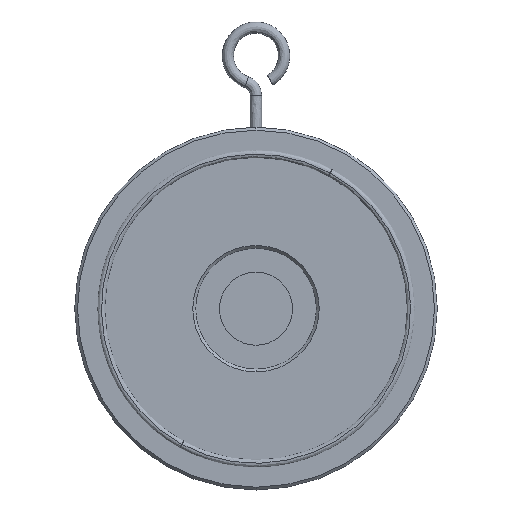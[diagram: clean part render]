
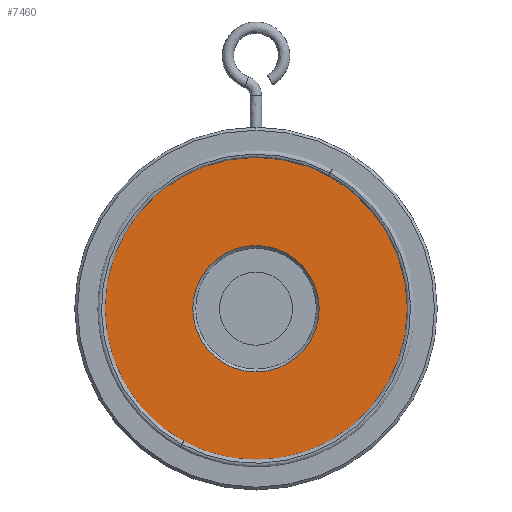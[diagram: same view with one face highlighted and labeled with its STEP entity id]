
A CAD part, left-side view. The second image highlights one B-rep face of the part: STEP entity #7460.
In plain terms, the highlighted planar face has unit normal (-1, 0, 0).
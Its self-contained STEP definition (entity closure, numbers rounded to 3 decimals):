
#199 = EDGE_CURVE ( 'NONE', #4993, #1226, #619, .T. ) ;
#401 = DIRECTION ( 'NONE',  ( 1., 0., 0. ) ) ;
#526 = CARTESIAN_POINT ( 'NONE',  ( -8., 0., 0. ) ) ;
#569 = CARTESIAN_POINT ( 'NONE',  ( -8., 0., 0. ) ) ;
#619 = CIRCLE ( 'NONE', #4421, 22.5 ) ;
#758 = ORIENTED_EDGE ( 'NONE', *, *, #4312, .T. ) ;
#1011 = EDGE_LOOP ( 'NONE', ( #758, #2785 ) ) ;
#1226 = VERTEX_POINT ( 'NONE', #2347 ) ;
#1272 = DIRECTION ( 'NONE',  ( 0., 0., 1. ) ) ;
#1315 = DIRECTION ( 'NONE',  ( 1., 0., 0. ) ) ;
#1548 = VERTEX_POINT ( 'NONE', #3069 ) ;
#1712 = DIRECTION ( 'NONE',  ( 0., 0., 1. ) ) ;
#1819 = CIRCLE ( 'NONE', #3632, 53.853 ) ;
#1911 = EDGE_CURVE ( 'NONE', #9062, #1548, #1819, .T. ) ;
#2347 = CARTESIAN_POINT ( 'NONE',  ( -8., 0., 22.5 ) ) ;
#2388 = EDGE_CURVE ( 'NONE', #1548, #9062, #3902, .T. ) ;
#2425 = FACE_OUTER_BOUND ( 'NONE', #4927, .T. ) ;
#2785 = ORIENTED_EDGE ( 'NONE', *, *, #199, .T. ) ;
#3069 = CARTESIAN_POINT ( 'NONE',  ( -8., 0., -53.853 ) ) ;
#3106 = DIRECTION ( 'NONE',  ( 0., 0., 1. ) ) ;
#3328 = AXIS2_PLACEMENT_3D ( 'NONE', #526, #5718, #1272 ) ;
#3496 = ORIENTED_EDGE ( 'NONE', *, *, #1911, .F. ) ;
#3632 = AXIS2_PLACEMENT_3D ( 'NONE', #8323, #9065, #1712 ) ;
#3902 = CIRCLE ( 'NONE', #6929, 53.853 ) ;
#4312 = EDGE_CURVE ( 'NONE', #1226, #4993, #9521, .T. ) ;
#4421 = AXIS2_PLACEMENT_3D ( 'NONE', #7545, #7512, #3106 ) ;
#4855 = CARTESIAN_POINT ( 'NONE',  ( -8., 0., 0. ) ) ;
#4927 = EDGE_LOOP ( 'NONE', ( #3496, #6088 ) ) ;
#4993 = VERTEX_POINT ( 'NONE', #6997 ) ;
#5592 = DIRECTION ( 'NONE',  ( 0., 0., 1. ) ) ;
#5718 = DIRECTION ( 'NONE',  ( 1., 0., 0. ) ) ;
#6036 = CARTESIAN_POINT ( 'NONE',  ( -8., 0., 53.853 ) ) ;
#6088 = ORIENTED_EDGE ( 'NONE', *, *, #2388, .F. ) ;
#6116 = FACE_BOUND ( 'NONE', #1011, .T. ) ;
#6495 = DIRECTION ( 'NONE',  ( 0., 0., -1. ) ) ;
#6929 = AXIS2_PLACEMENT_3D ( 'NONE', #4855, #401, #5592 ) ;
#6997 = CARTESIAN_POINT ( 'NONE',  ( -8., 0., -22.5 ) ) ;
#7460 = ADVANCED_FACE ( 'NONE', ( #6116, #2425 ), #9422, .F. ) ;
#7512 = DIRECTION ( 'NONE',  ( 1., 0., 0. ) ) ;
#7545 = CARTESIAN_POINT ( 'NONE',  ( -8., 0., 0. ) ) ;
#8323 = CARTESIAN_POINT ( 'NONE',  ( -8., 0., 0. ) ) ;
#8329 = AXIS2_PLACEMENT_3D ( 'NONE', #569, #1315, #6495 ) ;
#9062 = VERTEX_POINT ( 'NONE', #6036 ) ;
#9065 = DIRECTION ( 'NONE',  ( 1., 0., 0. ) ) ;
#9422 = PLANE ( 'NONE',  #8329 ) ;
#9521 = CIRCLE ( 'NONE', #3328, 22.5 ) ;
